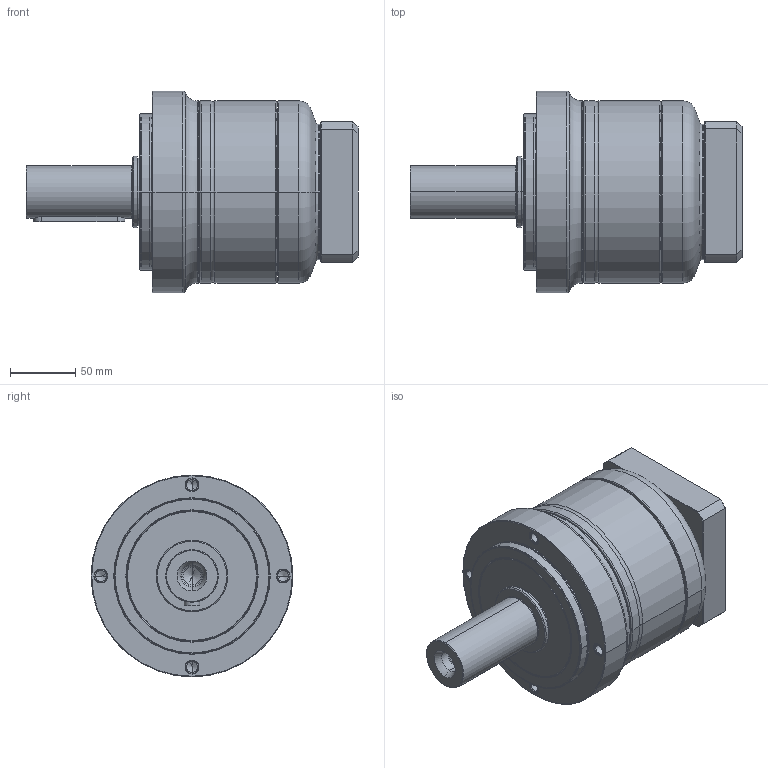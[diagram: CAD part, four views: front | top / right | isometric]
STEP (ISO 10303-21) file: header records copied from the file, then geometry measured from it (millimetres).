
FILE_DESCRIPTION((''),'2;1');
FILE_NAME('PE2-155_1ST_28-P0411600101_ASM','2016-04-26T',('d00435'),(''),'PRO/ENGINEER BY PARAMETRIC TECHNOLOGY CORPORATION, 2008410','PRO/ENGINEER BY PARAMETRIC TECHNOLOGY CORPORATION, 2008410','');
FILE_SCHEMA(('CONFIG_CONTROL_DESIGN'));
Length unit declared in the file: millimetre
Products named in the file (9): P1323510001; P0250500001; P1324500201; P0350501001; P0941502001; P0503600008; P0411600101; P1702500001; PE2-155_1ST_28-P0411600101_ASM
Assembly tree (8 placements, depth 2):
  PE2-155_1ST_28-P0411600101_ASM
    P1323510001
    P0250500001
    P1324500201
    P0350501001
    P0941502001
    P0503600008
    P0411600101
    P1702500001
Bounding box: 255 x 155 x 155 mm (x, y, z)
Volume: 2185822.1 mm3; surface area: 310706.2 mm2
Topology: 8 solids, 22 shells, 524 faces, 1171 edges, 692 vertices
Faces by surface type: cylinder 166, cone 144, torus 102, plane 96, bspline 16
Entity records: 19198 total; most frequent: CARTESIAN_POINT 7218, DIRECTION 2761, ORIENTED_EDGE 2214, AXIS2_PLACEMENT_3D 1194, EDGE_CURVE 1135, VERTEX_POINT 692, CIRCLE 659, EDGE_LOOP 605
